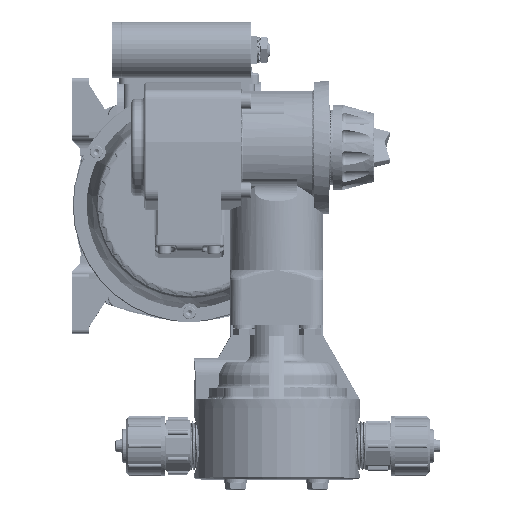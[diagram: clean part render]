
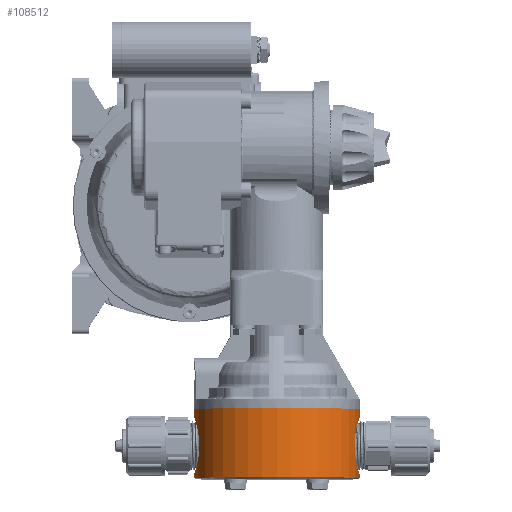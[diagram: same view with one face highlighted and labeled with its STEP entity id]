
A CAD part, top view. The second image highlights one B-rep face of the part: STEP entity #108512.
In plain terms, the highlighted cylindrical face has radius 44.6 mm (diameter 89.2 mm), a full revolution.
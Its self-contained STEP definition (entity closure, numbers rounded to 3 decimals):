
#6190=B_SPLINE_CURVE_WITH_KNOTS('',3,(#226607,#226608,#226609,#226610,#226611,
#226612,#226613,#226614,#226615,#226616,#226617,#226618,#226619,#226620,
#226621,#226622,#226623,#226624,#226625,#226626,#226627,#226628,#226629,
#226630,#226631,#226632),.UNSPECIFIED.,.T.,.F.,(1,1,1,1,1,1,1,1,1,1,1,1,
1,1,1,1,1,1,1,1,1,1,1,1,1,1,1,1,1,1),(-0.019,-0.013,
-0.006,0.,0.006,0.013,
0.019,0.022,0.025,0.028,
0.032,0.038,0.041,0.044,
0.047,0.05,0.057,0.063,
0.066,0.069,0.073,0.076,
0.079,0.082,0.088,0.095,
0.101,0.107,0.113,0.12),
 .UNSPECIFIED.);
#6191=B_SPLINE_CURVE_WITH_KNOTS('',3,(#226634,#226635,#226636,#226637,#226638,
#226639,#226640,#226641,#226642,#226643,#226644,#226645,#226646,#226647,
#226648,#226649,#226650,#226651,#226652,#226653,#226654,#226655,#226656,
#226657,#226658,#226659),.UNSPECIFIED.,.T.,.F.,(1,1,1,1,1,1,1,1,1,1,1,1,
1,1,1,1,1,1,1,1,1,1,1,1,1,1,1,1,1,1),(-0.019,-0.013,
-0.006,0.,0.006,0.013,
0.019,0.022,0.025,0.028,
0.032,0.038,0.041,0.044,
0.047,0.05,0.057,0.063,
0.066,0.069,0.073,0.076,
0.079,0.082,0.088,0.095,
0.101,0.107,0.113,0.12),
 .UNSPECIFIED.);
#8669=CYLINDRICAL_SURFACE('',#120610,44.6);
#13535=CIRCLE('',#120609,44.6);
#13536=CIRCLE('',#120611,44.6);
#44596=ORIENTED_EDGE('',*,*,#60667,.T.);
#44597=ORIENTED_EDGE('',*,*,#60668,.T.);
#44598=ORIENTED_EDGE('',*,*,#60669,.F.);
#44599=ORIENTED_EDGE('',*,*,#60666,.T.);
#60666=EDGE_CURVE('',#70971,#70971,#13535,.T.);
#60667=EDGE_CURVE('',#70972,#70972,#6190,.T.);
#60668=EDGE_CURVE('',#70973,#70973,#6191,.T.);
#60669=EDGE_CURVE('',#70974,#70974,#13536,.T.);
#70971=VERTEX_POINT('',#226605);
#70972=VERTEX_POINT('',#226633);
#70973=VERTEX_POINT('',#226660);
#70974=VERTEX_POINT('',#226662);
#91348=EDGE_LOOP('',(#44596));
#91349=EDGE_LOOP('',(#44597));
#91350=EDGE_LOOP('',(#44598));
#91351=EDGE_LOOP('',(#44599));
#99377=FACE_BOUND('',#91348,.T.);
#99378=FACE_BOUND('',#91349,.T.);
#99379=FACE_BOUND('',#91350,.T.);
#99380=FACE_BOUND('',#91351,.T.);
#108512=ADVANCED_FACE('',(#99377,#99378,#99379,#99380),#8669,.T.);
#120609=AXIS2_PLACEMENT_3D('',#226604,#148507,#148508);
#120610=AXIS2_PLACEMENT_3D('',#226606,#148509,#148510);
#120611=AXIS2_PLACEMENT_3D('',#226661,#148511,#148512);
#148507=DIRECTION('',(0.,-1.,0.));
#148508=DIRECTION('',(0.,0.,-1.));
#148509=DIRECTION('',(0.,-1.,0.));
#148510=DIRECTION('',(0.,0.,-1.));
#148511=DIRECTION('',(0.,-1.,0.));
#148512=DIRECTION('',(0.,0.,-1.));
#226604=CARTESIAN_POINT('',(0.,-1.,0.));
#226605=CARTESIAN_POINT('',(0.,-1.,-44.6));
#226606=CARTESIAN_POINT('',(0.,-60.,0.));
#226607=CARTESIAN_POINT('',(6.329,-2.852,-44.284));
#226608=CARTESIAN_POINT('',(0.002,-1.573,-44.758));
#226609=CARTESIAN_POINT('',(-6.337,-2.854,-44.283));
#226610=CARTESIAN_POINT('',(-11.608,-6.408,-43.145));
#226611=CARTESIAN_POINT('',(-14.552,-10.784,-42.172));
#226612=CARTESIAN_POINT('',(-15.791,-14.84,-41.713));
#226613=CARTESIAN_POINT('',(-16.105,-17.98,-41.59));
#226614=CARTESIAN_POINT('',(-15.79,-21.171,-41.713));
#226615=CARTESIAN_POINT('',(-14.56,-25.195,-42.17));
#226616=CARTESIAN_POINT('',(-12.181,-28.732,-42.953));
#226617=CARTESIAN_POINT('',(-8.98,-31.365,-43.714));
#226618=CARTESIAN_POINT('',(-6.189,-32.867,-44.201));
#226619=CARTESIAN_POINT('',(-3.182,-33.786,-44.522));
#226620=CARTESIAN_POINT('',(1.056,-34.213,-44.678));
#226621=CARTESIAN_POINT('',(6.32,-33.152,-44.286));
#226622=CARTESIAN_POINT('',(10.728,-30.187,-43.336));
#226623=CARTESIAN_POINT('',(13.374,-26.967,-42.56));
#226624=CARTESIAN_POINT('',(14.867,-24.185,-42.056));
#226625=CARTESIAN_POINT('',(15.787,-21.183,-41.714));
#226626=CARTESIAN_POINT('',(16.105,-17.99,-41.59));
#226627=CARTESIAN_POINT('',(15.792,-14.845,-41.712));
#226628=CARTESIAN_POINT('',(14.553,-10.785,-42.172));
#226629=CARTESIAN_POINT('',(11.603,-6.401,-43.146));
#226630=CARTESIAN_POINT('',(6.329,-2.852,-44.284));
#226631=CARTESIAN_POINT('',(0.002,-1.573,-44.758));
#226632=CARTESIAN_POINT('',(-6.337,-2.854,-44.283));
#226633=CARTESIAN_POINT('',(0.,-2.,-44.6));
#226634=CARTESIAN_POINT('',(6.329,-33.148,44.284));
#226635=CARTESIAN_POINT('',(0.002,-34.427,44.758));
#226636=CARTESIAN_POINT('',(-6.337,-33.146,44.283));
#226637=CARTESIAN_POINT('',(-11.608,-29.592,43.145));
#226638=CARTESIAN_POINT('',(-14.552,-25.216,42.172));
#226639=CARTESIAN_POINT('',(-15.791,-21.16,41.713));
#226640=CARTESIAN_POINT('',(-16.105,-18.02,41.59));
#226641=CARTESIAN_POINT('',(-15.79,-14.829,41.713));
#226642=CARTESIAN_POINT('',(-14.56,-10.805,42.17));
#226643=CARTESIAN_POINT('',(-12.181,-7.268,42.953));
#226644=CARTESIAN_POINT('',(-8.98,-4.635,43.714));
#226645=CARTESIAN_POINT('',(-6.189,-3.133,44.201));
#226646=CARTESIAN_POINT('',(-3.182,-2.214,44.522));
#226647=CARTESIAN_POINT('',(1.056,-1.787,44.678));
#226648=CARTESIAN_POINT('',(6.32,-2.848,44.286));
#226649=CARTESIAN_POINT('',(10.728,-5.813,43.336));
#226650=CARTESIAN_POINT('',(13.374,-9.033,42.56));
#226651=CARTESIAN_POINT('',(14.867,-11.815,42.056));
#226652=CARTESIAN_POINT('',(15.787,-14.817,41.714));
#226653=CARTESIAN_POINT('',(16.105,-18.01,41.59));
#226654=CARTESIAN_POINT('',(15.792,-21.155,41.712));
#226655=CARTESIAN_POINT('',(14.553,-25.215,42.172));
#226656=CARTESIAN_POINT('',(11.603,-29.599,43.146));
#226657=CARTESIAN_POINT('',(6.329,-33.148,44.284));
#226658=CARTESIAN_POINT('',(0.002,-34.427,44.758));
#226659=CARTESIAN_POINT('',(-6.337,-33.146,44.283));
#226660=CARTESIAN_POINT('',(0.,-34.,44.6));
#226661=CARTESIAN_POINT('',(0.,-38.,0.));
#226662=CARTESIAN_POINT('',(0.,-38.,-44.6));
